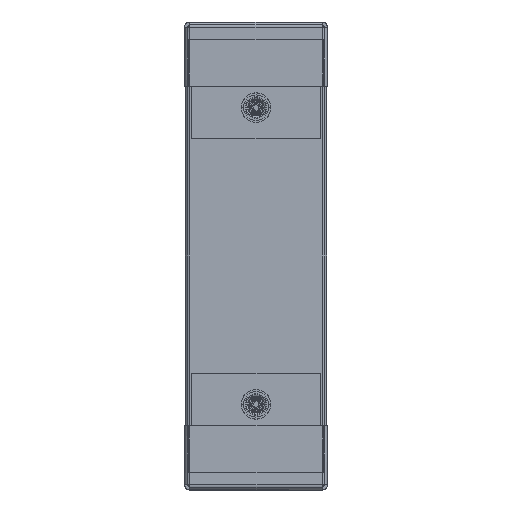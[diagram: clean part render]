
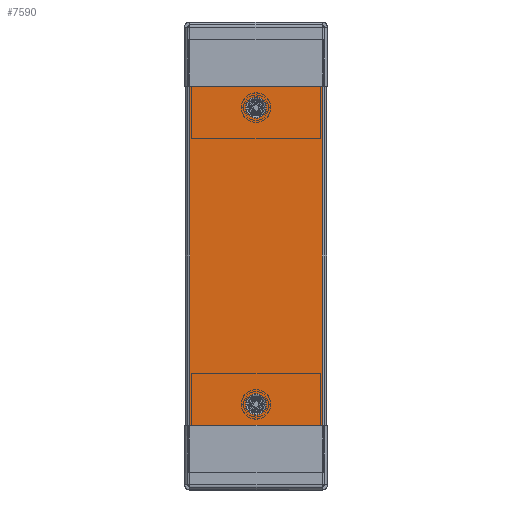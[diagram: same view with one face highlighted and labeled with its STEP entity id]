
A CAD part, left-side view. The second image highlights one B-rep face of the part: STEP entity #7590.
In plain terms, the highlighted planar face has unit normal (-1, 0, 0) as drawn and (0, -1, 0) by its records, which use the part's own axes.
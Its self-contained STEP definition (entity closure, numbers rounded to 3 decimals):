
#875 = EDGE_LOOP ( 'NONE', ( #2464, #2465, #2466, #2467 ) ) ;
#884 = EDGE_LOOP ( 'NONE', ( #2468, #2469 ) ) ;
#885 = EDGE_LOOP ( 'NONE', ( #2462, #2463 ) ) ;
#2098 = VERTEX_POINT ( 'NONE', #9003 ) ;
#2099 = VERTEX_POINT ( 'NONE', #9004 ) ;
#2110 = VERTEX_POINT ( 'NONE', #9015 ) ;
#2111 = VERTEX_POINT ( 'NONE', #9016 ) ;
#2112 = VERTEX_POINT ( 'NONE', #9017 ) ;
#2113 = VERTEX_POINT ( 'NONE', #9018 ) ;
#2118 = VERTEX_POINT ( 'NONE', #9023 ) ;
#2121 = VERTEX_POINT ( 'NONE', #9026 ) ;
#2462 = ORIENTED_EDGE ( 'NONE', *, *, #7732, .T. ) ;
#2463 = ORIENTED_EDGE ( 'NONE', *, *, #7719, .T. ) ;
#2464 = ORIENTED_EDGE ( 'NONE', *, *, #7733, .T. ) ;
#2465 = ORIENTED_EDGE ( 'NONE', *, *, #7734, .F. ) ;
#2466 = ORIENTED_EDGE ( 'NONE', *, *, #7735, .F. ) ;
#2467 = ORIENTED_EDGE ( 'NONE', *, *, #7736, .T. ) ;
#2468 = ORIENTED_EDGE ( 'NONE', *, *, #7700, .F. ) ;
#2469 = ORIENTED_EDGE ( 'NONE', *, *, #7737, .F. ) ;
#4734 = FACE_OUTER_BOUND ( 'NONE', #875, .T. ) ;
#4738 = DIRECTION ( 'NONE',  ( 0., 1., 0. ) ) ;
#4740 = CARTESIAN_POINT ( 'NONE',  ( 118.5, 0., 49.5 ) ) ;
#4741 = FACE_BOUND ( 'NONE', #885, .T. ) ;
#4743 = FACE_BOUND ( 'NONE', #884, .T. ) ;
#4744 = PLANE ( 'NONE',  #11127 ) ;
#4746 = DIRECTION ( 'NONE',  ( 0., 0., 1. ) ) ;
#5113 = CARTESIAN_POINT ( 'NONE',  ( -104., 0., 0. ) ) ;
#5114 = DIRECTION ( 'NONE',  ( 0., -1., 0. ) ) ;
#5115 = DIRECTION ( 'NONE',  ( 0., 0., -1. ) ) ;
#5169 = CARTESIAN_POINT ( 'NONE',  ( 104., 0., 0. ) ) ;
#5170 = DIRECTION ( 'NONE',  ( 0., 1., 0. ) ) ;
#5171 = DIRECTION ( 'NONE',  ( 0., 0., -1. ) ) ;
#5205 = LINE ( 'NONE', #5206, #5560 ) ;
#5206 = CARTESIAN_POINT ( 'NONE',  ( -118.5, 0., 49.5 ) ) ;
#5210 = LINE ( 'NONE', #5220, #5562 ) ;
#5211 = LINE ( 'NONE', #5217, #5554 ) ;
#5212 = CARTESIAN_POINT ( 'NONE',  ( 104., 0., 0. ) ) ;
#5213 = DIRECTION ( 'NONE',  ( 0., 1., 0. ) ) ;
#5214 = DIRECTION ( 'NONE',  ( 0., 0., -1. ) ) ;
#5215 = LINE ( 'NONE', #5223, #5563 ) ;
#5216 = DIRECTION ( 'NONE',  ( 0., 0., -1. ) ) ;
#5217 = CARTESIAN_POINT ( 'NONE',  ( 118.5, 0., -46.3 ) ) ;
#5219 = DIRECTION ( 'NONE',  ( -1., 0., 0. ) ) ;
#5220 = CARTESIAN_POINT ( 'NONE',  ( 118.5, 0., 49.5 ) ) ;
#5222 = DIRECTION ( 'NONE',  ( 0., 0., -1. ) ) ;
#5223 = CARTESIAN_POINT ( 'NONE',  ( 118.5, 0., 46.3 ) ) ;
#5224 = DIRECTION ( 'NONE',  ( -1., 0., 0. ) ) ;
#5225 = CARTESIAN_POINT ( 'NONE',  ( -104., 0., 0. ) ) ;
#5226 = DIRECTION ( 'NONE',  ( 0., -1., 0. ) ) ;
#5227 = DIRECTION ( 'NONE',  ( 0., 0., -1. ) ) ;
#5507 = CIRCLE ( 'NONE', #5509, 7.22 ) ;
#5509 = AXIS2_PLACEMENT_3D ( 'NONE', #5113, #5114, #5115 ) ;
#5534 = CIRCLE ( 'NONE', #5541, 7.22 ) ;
#5541 = AXIS2_PLACEMENT_3D ( 'NONE', #5169, #5170, #5171 ) ;
#5554 = VECTOR ( 'NONE', #5219, 1000. ) ;
#5558 = CIRCLE ( 'NONE', #5561, 7.22 ) ;
#5560 = VECTOR ( 'NONE', #5216, 1000. ) ;
#5561 = AXIS2_PLACEMENT_3D ( 'NONE', #5212, #5213, #5214 ) ;
#5562 = VECTOR ( 'NONE', #5222, 1000. ) ;
#5563 = VECTOR ( 'NONE', #5224, 1000. ) ;
#5565 = CIRCLE ( 'NONE', #5567, 7.22 ) ;
#5567 = AXIS2_PLACEMENT_3D ( 'NONE', #5225, #5226, #5227 ) ;
#7590 = ADVANCED_FACE ( 'NONE', ( #4741, #4734, #4743 ), #4744, .F. ) ;
#7700 = EDGE_CURVE ( 'NONE', #2098, #2099, #5507, .T. ) ;
#7719 = EDGE_CURVE ( 'NONE', #2110, #2111, #5534, .T. ) ;
#7732 = EDGE_CURVE ( 'NONE', #2111, #2110, #5558, .T. ) ;
#7733 = EDGE_CURVE ( 'NONE', #2113, #2112, #5205, .T. ) ;
#7734 = EDGE_CURVE ( 'NONE', #2118, #2112, #5211, .T. ) ;
#7735 = EDGE_CURVE ( 'NONE', #2121, #2118, #5210, .T. ) ;
#7736 = EDGE_CURVE ( 'NONE', #2121, #2113, #5215, .T. ) ;
#7737 = EDGE_CURVE ( 'NONE', #2099, #2098, #5565, .T. ) ;
#9003 = CARTESIAN_POINT ( 'NONE',  ( -104., 0., -7.22 ) ) ;
#9004 = CARTESIAN_POINT ( 'NONE',  ( -104., 0., 7.22 ) ) ;
#9015 = CARTESIAN_POINT ( 'NONE',  ( 104., 0., 7.22 ) ) ;
#9016 = CARTESIAN_POINT ( 'NONE',  ( 104., 0., -7.22 ) ) ;
#9017 = CARTESIAN_POINT ( 'NONE',  ( -118.5, 0., -46.3 ) ) ;
#9018 = CARTESIAN_POINT ( 'NONE',  ( -118.5, 0., 46.3 ) ) ;
#9023 = CARTESIAN_POINT ( 'NONE',  ( 118.5, 0., -46.3 ) ) ;
#9026 = CARTESIAN_POINT ( 'NONE',  ( 118.5, 0., 46.3 ) ) ;
#11127 = AXIS2_PLACEMENT_3D ( 'NONE', #4740, #4738, #4746 ) ;
